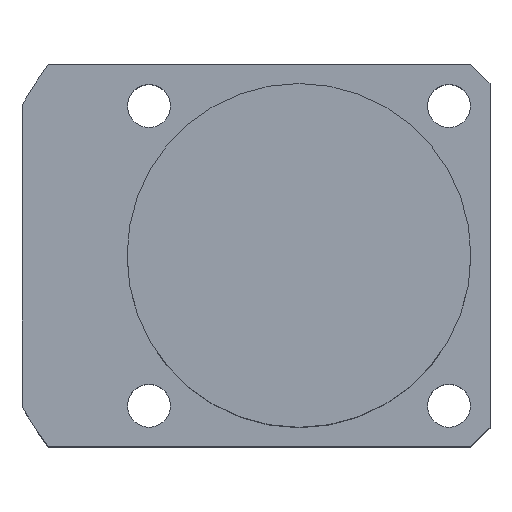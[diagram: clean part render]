
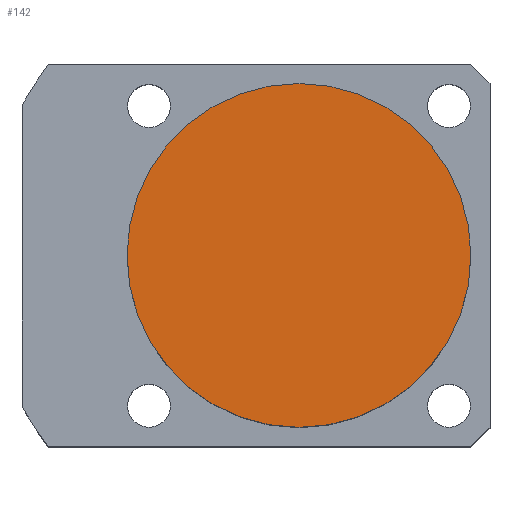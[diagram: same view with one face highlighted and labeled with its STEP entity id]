
A CAD part, top view. The second image highlights one B-rep face of the part: STEP entity #142.
In plain terms, the highlighted planar face has unit normal (0, 0, 1).
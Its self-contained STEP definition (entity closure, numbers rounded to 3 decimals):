
#45 = FACE_OUTER_BOUND ( 'NONE', #1872, .T. ) ;
#142 = ADVANCED_FACE ( 'NONE', ( #45 ), #968, .T. ) ;
#193 = AXIS2_PLACEMENT_3D ( 'NONE', #585, #414, #1178 ) ;
#237 = CARTESIAN_POINT ( 'NONE',  ( 18., 0., 33.5 ) ) ;
#312 = DIRECTION ( 'NONE',  ( 1., 0., 0. ) ) ;
#414 = DIRECTION ( 'NONE',  ( 0., 0., 1. ) ) ;
#585 = CARTESIAN_POINT ( 'NONE',  ( 0., 0., 33.5 ) ) ;
#666 = AXIS2_PLACEMENT_3D ( 'NONE', #1712, #1267, #1392 ) ;
#764 = CARTESIAN_POINT ( 'NONE',  ( -18., 0., 33.5 ) ) ;
#776 = CARTESIAN_POINT ( 'NONE',  ( 0., 0., 33.5 ) ) ;
#787 = DIRECTION ( 'NONE',  ( 0., 0., 1. ) ) ;
#811 = VERTEX_POINT ( 'NONE', #237 ) ;
#867 = ORIENTED_EDGE ( 'NONE', *, *, #1606, .T. ) ;
#968 = PLANE ( 'NONE',  #666 ) ;
#987 = EDGE_CURVE ( 'NONE', #1800, #811, #1217, .T. ) ;
#1178 = DIRECTION ( 'NONE',  ( 1., 0., 0. ) ) ;
#1217 = CIRCLE ( 'NONE', #1535, 18. ) ;
#1267 = DIRECTION ( 'NONE',  ( 0., 0., 1. ) ) ;
#1392 = DIRECTION ( 'NONE',  ( 1., 0., 0. ) ) ;
#1535 = AXIS2_PLACEMENT_3D ( 'NONE', #776, #787, #312 ) ;
#1606 = EDGE_CURVE ( 'NONE', #811, #1800, #1764, .T. ) ;
#1712 = CARTESIAN_POINT ( 'NONE',  ( 0., 0., 33.5 ) ) ;
#1764 = CIRCLE ( 'NONE', #193, 18. ) ;
#1800 = VERTEX_POINT ( 'NONE', #764 ) ;
#1872 = EDGE_LOOP ( 'NONE', ( #1921, #867 ) ) ;
#1921 = ORIENTED_EDGE ( 'NONE', *, *, #987, .T. ) ;
